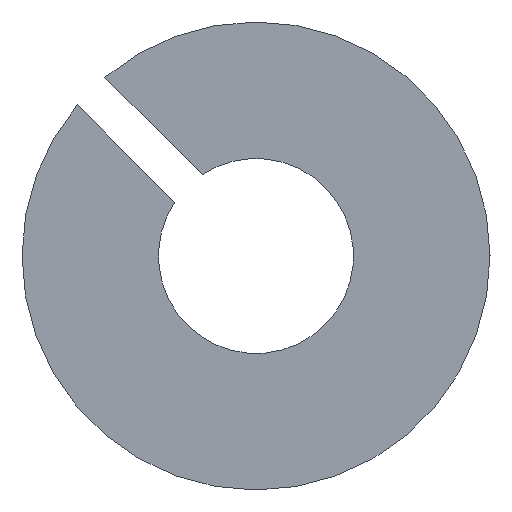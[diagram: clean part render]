
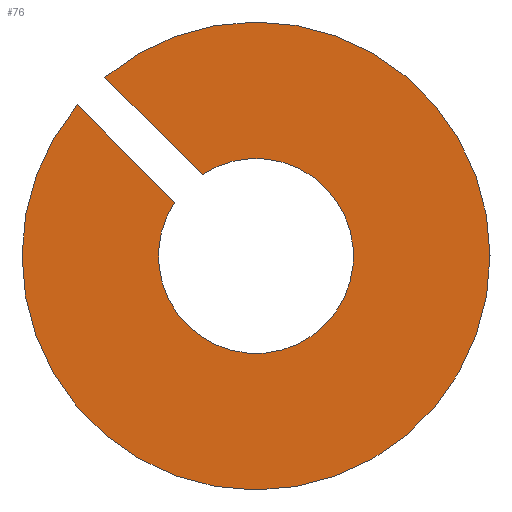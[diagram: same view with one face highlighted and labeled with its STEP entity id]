
A CAD part, left-side view. The second image highlights one B-rep face of the part: STEP entity #76.
In plain terms, the highlighted planar face has unit normal (-1, 0, 0).
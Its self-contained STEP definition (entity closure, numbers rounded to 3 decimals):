
#76 = ADVANCED_FACE( '', ( #92 ), #93, .T. );
#92 = FACE_OUTER_BOUND( '', #120, .T. );
#93 = PLANE( '', #121 );
#120 = EDGE_LOOP( '', ( #153, #154, #155, #156 ) );
#121 = AXIS2_PLACEMENT_3D( '', #157, #158, #159 );
#153 = ORIENTED_EDGE( '', *, *, #264, .T. );
#154 = ORIENTED_EDGE( '', *, *, #265, .T. );
#155 = ORIENTED_EDGE( '', *, *, #260, .F. );
#156 = ORIENTED_EDGE( '', *, *, #266, .T. );
#157 = CARTESIAN_POINT( '', ( 0., 6., 0. ) );
#158 = DIRECTION( '', ( -1., 0., 0. ) );
#159 = DIRECTION( '', ( 0., 0., 1. ) );
#260 = EDGE_CURVE( '', #296, #297, #298, .T. );
#264 = EDGE_CURVE( '', #304, #305, #306, .T. );
#265 = EDGE_CURVE( '', #305, #297, #307, .T. );
#266 = EDGE_CURVE( '', #296, #304, #308, .T. );
#296 = VERTEX_POINT( '', #356 );
#297 = VERTEX_POINT( '', #357 );
#298 = CIRCLE( '', #358, 6. );
#304 = VERTEX_POINT( '', #366 );
#305 = VERTEX_POINT( '', #367 );
#306 = CIRCLE( '', #368, 2.5 );
#307 = LINE( '', #369, #370 );
#308 = LINE( '', #371, #372 );
#356 = CARTESIAN_POINT( '', ( 0., 3.874, 4.581 ) );
#357 = CARTESIAN_POINT( '', ( 0., 4.581, 3.874 ) );
#358 = AXIS2_PLACEMENT_3D( '', #440, #441, #442 );
#366 = CARTESIAN_POINT( '', ( 0., 1.378, 2.086 ) );
#367 = CARTESIAN_POINT( '', ( 0., 2.086, 1.378 ) );
#368 = AXIS2_PLACEMENT_3D( '', #448, #449, #450 );
#369 = CARTESIAN_POINT( '', ( 0., 1.768, 1.061 ) );
#370 = VECTOR( '', #451, 1000. );
#371 = CARTESIAN_POINT( '', ( 0., 4.243, 4.95 ) );
#372 = VECTOR( '', #452, 1000. );
#440 = CARTESIAN_POINT( '', ( 0., 0., 0. ) );
#441 = DIRECTION( '', ( 1., 0., 0. ) );
#442 = DIRECTION( '', ( 0., 0., -1. ) );
#448 = CARTESIAN_POINT( '', ( 0., 0., 0. ) );
#449 = DIRECTION( '', ( 1., 0., 0. ) );
#450 = DIRECTION( '', ( 0., 0., -1. ) );
#451 = DIRECTION( '', ( 0., 0.707, 0.707 ) );
#452 = DIRECTION( '', ( 0., -0.707, -0.707 ) );
